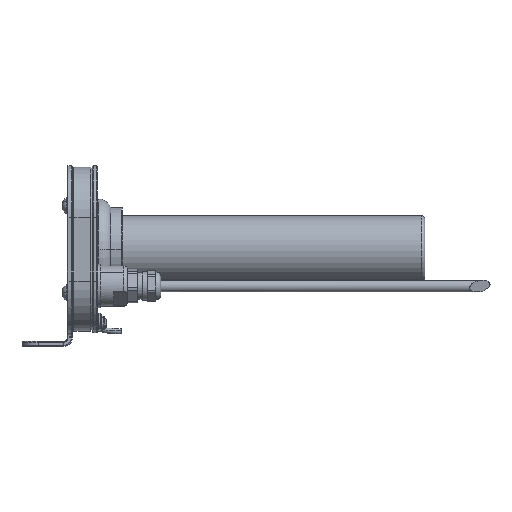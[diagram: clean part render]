
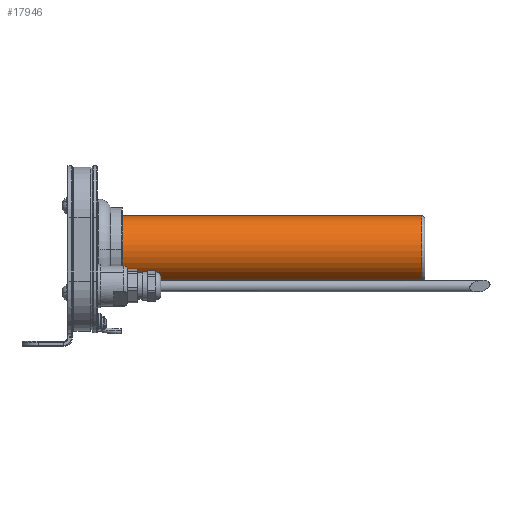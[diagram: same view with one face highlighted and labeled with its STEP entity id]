
A CAD part, left-side view. The second image highlights one B-rep face of the part: STEP entity #17946.
In plain terms, the highlighted cylindrical face has radius 20 mm (diameter 40 mm), a partial arc.
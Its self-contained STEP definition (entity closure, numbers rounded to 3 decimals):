
#340 = CARTESIAN_POINT ( 'NONE',  ( -8.986, -198.01, -17.867 ) ) ;
#533 = FACE_OUTER_BOUND ( 'NONE', #5678, .T. ) ;
#1590 = CYLINDRICAL_SURFACE ( 'NONE', #27140, 20. ) ;
#2234 = CIRCLE ( 'NONE', #25856, 20. ) ;
#3497 = AXIS2_PLACEMENT_3D ( 'NONE', #24341, #6808, #27632 ) ;
#4604 = EDGE_CURVE ( 'NONE', #5239, #18295, #17954, .T. ) ;
#5112 = VECTOR ( 'NONE', #15194, 1000. ) ;
#5239 = VERTEX_POINT ( 'NONE', #33011 ) ;
#5678 = EDGE_LOOP ( 'NONE', ( #18623, #15674, #33436, #23752 ) ) ;
#6808 = DIRECTION ( 'NONE',  ( 0., -1., 0. ) ) ;
#6936 = CARTESIAN_POINT ( 'NONE',  ( 8.986, -200., 17.867 ) ) ;
#8683 = EDGE_CURVE ( 'NONE', #18295, #36464, #20142, .T. ) ;
#9490 = DIRECTION ( 'NONE',  ( 0., -1., 0. ) ) ;
#10469 = EDGE_CURVE ( 'NONE', #5239, #12618, #12717, .T. ) ;
#12618 = VERTEX_POINT ( 'NONE', #25178 ) ;
#12717 = LINE ( 'NONE', #6936, #5112 ) ;
#12902 = DIRECTION ( 'NONE',  ( 0., -1., 0. ) ) ;
#13454 = CARTESIAN_POINT ( 'NONE',  ( -8.986, -18.3, -17.867 ) ) ;
#15194 = DIRECTION ( 'NONE',  ( 0., -1., 0. ) ) ;
#15674 = ORIENTED_EDGE ( 'NONE', *, *, #4604, .T. ) ;
#16592 = CARTESIAN_POINT ( 'NONE',  ( -8.986, -200., -17.867 ) ) ;
#17946 = ADVANCED_FACE ( 'NONE', ( #533 ), #1590, .T. ) ;
#17954 = CIRCLE ( 'NONE', #3497, 20. ) ;
#18295 = VERTEX_POINT ( 'NONE', #13454 ) ;
#18623 = ORIENTED_EDGE ( 'NONE', *, *, #10469, .F. ) ;
#19241 = VECTOR ( 'NONE', #9490, 1000. ) ;
#19701 = EDGE_CURVE ( 'NONE', #12618, #36464, #2234, .T. ) ;
#20142 = LINE ( 'NONE', #16592, #19241 ) ;
#23752 = ORIENTED_EDGE ( 'NONE', *, *, #19701, .F. ) ;
#23941 = DIRECTION ( 'NONE',  ( -0.449, 0., -0.893 ) ) ;
#24341 = CARTESIAN_POINT ( 'NONE',  ( 0., -18.3, 0. ) ) ;
#24564 = CARTESIAN_POINT ( 'NONE',  ( 0., -198.01, 0. ) ) ;
#25178 = CARTESIAN_POINT ( 'NONE',  ( 8.986, -198.01, 17.867 ) ) ;
#25772 = DIRECTION ( 'NONE',  ( 0., -1., 0. ) ) ;
#25856 = AXIS2_PLACEMENT_3D ( 'NONE', #24564, #12902, #33012 ) ;
#27140 = AXIS2_PLACEMENT_3D ( 'NONE', #30269, #25772, #23941 ) ;
#27632 = DIRECTION ( 'NONE',  ( -0.449, 0., -0.893 ) ) ;
#30269 = CARTESIAN_POINT ( 'NONE',  ( 0., -200., 0. ) ) ;
#33011 = CARTESIAN_POINT ( 'NONE',  ( 8.986, -18.3, 17.867 ) ) ;
#33012 = DIRECTION ( 'NONE',  ( -0.449, 0., -0.893 ) ) ;
#33436 = ORIENTED_EDGE ( 'NONE', *, *, #8683, .T. ) ;
#36464 = VERTEX_POINT ( 'NONE', #340 ) ;
